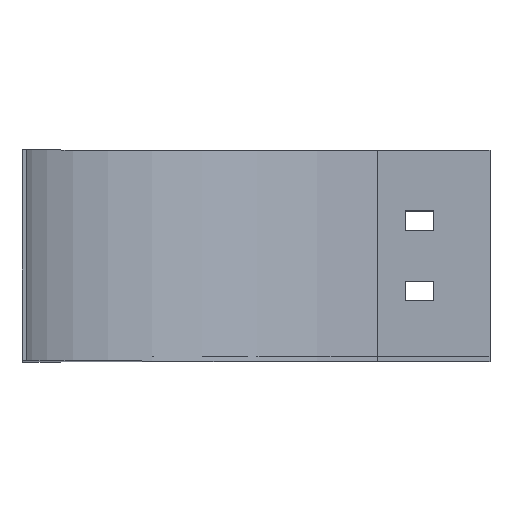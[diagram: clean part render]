
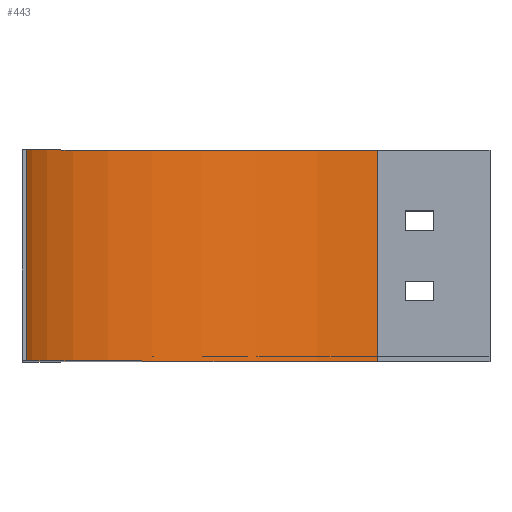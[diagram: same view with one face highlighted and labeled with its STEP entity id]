
A CAD part, top view. The second image highlights one B-rep face of the part: STEP entity #443.
In plain terms, the highlighted cylindrical face has radius 125 mm (diameter 250 mm), a partial arc.
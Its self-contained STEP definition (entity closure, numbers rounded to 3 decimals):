
#4 = DIRECTION ( 'NONE',  ( 0., -1., 0. ) ) ;
#34 = ORIENTED_EDGE ( 'NONE', *, *, #1665, .T. ) ;
#78 = EDGE_CURVE ( 'NONE', #644, #1460, #912, .T. ) ;
#171 = CIRCLE ( 'NONE', #393, 125. ) ;
#177 = CARTESIAN_POINT ( 'NONE',  ( 0., 0., 0. ) ) ;
#179 = AXIS2_PLACEMENT_3D ( 'NONE', #1588, #538, #528 ) ;
#215 = EDGE_CURVE ( 'NONE', #1460, #636, #1405, .T. ) ;
#228 = CARTESIAN_POINT ( 'NONE',  ( -125., 75., 0. ) ) ;
#291 = CARTESIAN_POINT ( 'NONE',  ( -125., 75., 0. ) ) ;
#334 = DIRECTION ( 'NONE',  ( 0., 0., -1. ) ) ;
#343 = DIRECTION ( 'NONE',  ( 0., -1., 0. ) ) ;
#353 = CARTESIAN_POINT ( 'NONE',  ( 0., 75., 0. ) ) ;
#393 = AXIS2_PLACEMENT_3D ( 'NONE', #177, #1067, #692 ) ;
#443 = ADVANCED_FACE ( 'NONE', ( #1109 ), #1362, .F. ) ;
#452 = AXIS2_PLACEMENT_3D ( 'NONE', #353, #343, #334 ) ;
#464 = LINE ( 'NONE', #228, #821 ) ;
#471 = CARTESIAN_POINT ( 'NONE',  ( -125., 0., 0. ) ) ;
#476 = ORIENTED_EDGE ( 'NONE', *, *, #78, .F. ) ;
#480 = VECTOR ( 'NONE', #4, 1000. ) ;
#528 = DIRECTION ( 'NONE',  ( 0., 0., -1. ) ) ;
#538 = DIRECTION ( 'NONE',  ( 0., -1., 0. ) ) ;
#575 = EDGE_LOOP ( 'NONE', ( #34, #1422, #476, #1443 ) ) ;
#636 = VERTEX_POINT ( 'NONE', #1561 ) ;
#644 = VERTEX_POINT ( 'NONE', #291 ) ;
#692 = DIRECTION ( 'NONE',  ( 0., 0., -1. ) ) ;
#740 = EDGE_CURVE ( 'NONE', #644, #1125, #464, .T. ) ;
#821 = VECTOR ( 'NONE', #1355, 1000. ) ;
#912 = CIRCLE ( 'NONE', #179, 125. ) ;
#955 = CARTESIAN_POINT ( 'NONE',  ( 0., 75., -125. ) ) ;
#1067 = DIRECTION ( 'NONE',  ( 0., -1., 0. ) ) ;
#1109 = FACE_OUTER_BOUND ( 'NONE', #575, .T. ) ;
#1125 = VERTEX_POINT ( 'NONE', #471 ) ;
#1156 = CARTESIAN_POINT ( 'NONE',  ( 0., 75., -125. ) ) ;
#1355 = DIRECTION ( 'NONE',  ( 0., -1., 0. ) ) ;
#1362 = CYLINDRICAL_SURFACE ( 'NONE', #452, 125. ) ;
#1405 = LINE ( 'NONE', #1156, #480 ) ;
#1422 = ORIENTED_EDGE ( 'NONE', *, *, #215, .F. ) ;
#1443 = ORIENTED_EDGE ( 'NONE', *, *, #740, .T. ) ;
#1460 = VERTEX_POINT ( 'NONE', #955 ) ;
#1561 = CARTESIAN_POINT ( 'NONE',  ( 0., 0., -125. ) ) ;
#1588 = CARTESIAN_POINT ( 'NONE',  ( 0., 75., 0. ) ) ;
#1665 = EDGE_CURVE ( 'NONE', #1125, #636, #171, .T. ) ;
